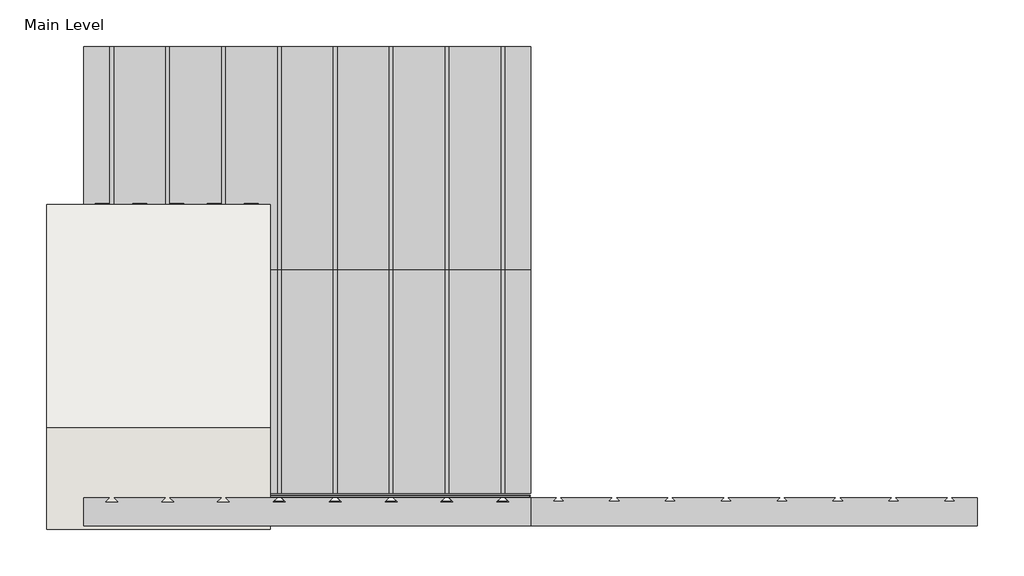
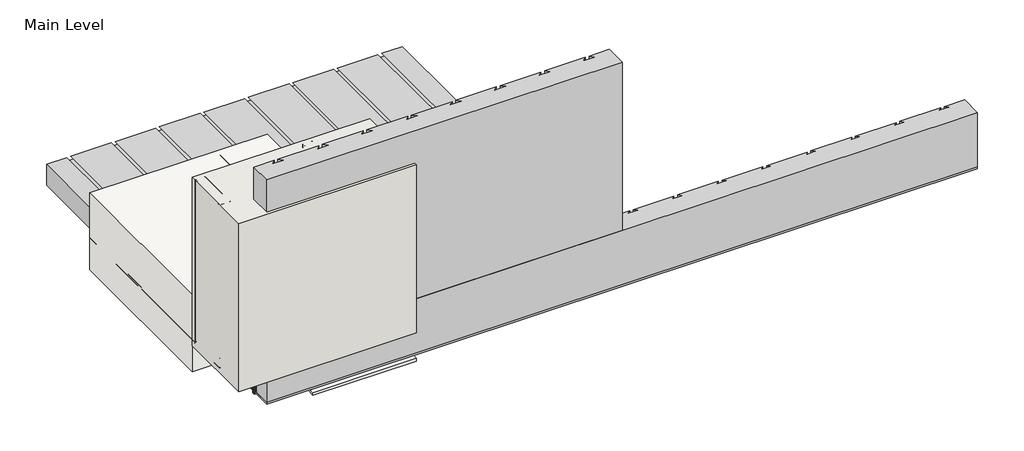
# One storey, incomplete: 21 proxies, 2 coverings, 2 walls.
"""IFC4 building model written with IfcOpenShell, lengths in millimetres."""

from ifc_helpers import new_model, si_unit, frame, origin, origin_with_axes, place, context, project, spatial, polyline, outline, extrude, transform, mapped, element, save
from components import generic_models_cd07b2ce, generic_models_4ec5f286, generic_models_2e656d56, generic_models_47e8b319, generic_models_65503a8f, proxy_998bcb27, proxy_b027fc18, proxy_63d6b373, soffit_box_soffit_box_70e22adb, top_adhesive_top_adhesive_610fdb37, wood_blocking_c9818c35, wood_blocking_63bdfc83

model = new_model("IFC4")

# Units and contexts
model_context = context("Model", 3, world=origin())
ifc_project = project(units=[si_unit("LENGTHUNIT", "METRE", prefix="MILLI")], contexts=[model_context])

# Site, building, storey
site = spatial("IfcSite", under=ifc_project)
building = spatial("IfcBuilding", under=site)
storey = spatial("IfcBuildingStorey", under=building, Name="Main Level", Elevation=0.0)

# Proxies
placement = place(None, origin())
generic_models_shape = generic_models_cd07b2ce(model_context)
element("IfcBuildingElementProxy", 1, Name="CRAi Generic Model Metal Stud Array : CRAi Generic Model Metal Stud Array", ObjectType="CRAi Generic Model Metal Stud Array : CRAi Generic Model Metal Stud Array", at=placement, inside=storey, context=model_context, shape_type="MappedRepresentation", body=[
    mapped(generic_models_shape, transform((26692.3726773, 726.0566297, 22.225), x_axis=(-1.0, 0.0, 0.0), y_axis=(0.0, -1.0, 0.0), z_axis=(0.0, 0.0, 1.0))),
])
generic_models_2_shape = generic_models_4ec5f286(model_context)
element("IfcBuildingElementProxy", 2, Name="Durabond Generic Model Insulation Adhesive Flat : Durabond Generic Model Insulation Adhesive Flat", ObjectType="Durabond Generic Model Insulation Adhesive Flat : Durabond Generic Model Insulation Adhesive Flat", at=placement, inside=storey, context=model_context, shape_type="MappedRepresentation", body=[
    mapped(generic_models_2_shape, transform((26641.5726773, 627.6316297, -9.525), x_axis=(1.0, 0.0, 0.0), y_axis=(0.0, 1.0, 0.0), z_axis=(0.0, 0.0, 1.0))),
])
element("IfcBuildingElementProxy", 3, Name="Durabond Generic Model Insulation Adhesive Flat : Durabond Generic Model Insulation Adhesive Flat", ObjectType="Durabond Generic Model Insulation Adhesive Flat : Durabond Generic Model Insulation Adhesive Flat", at=placement, inside=storey, context=model_context, shape_type="MappedRepresentation", body=[
    mapped(generic_models_2_shape, transform((26743.1726773, 627.6316297, -9.525), x_axis=(1.0, 0.0, 0.0), y_axis=(0.0, 1.0, 0.0), z_axis=(0.0, 0.0, 1.0))),
])
element("IfcBuildingElementProxy", 4, Name="Durabond Generic Model Insulation Adhesive Flat : Durabond Generic Model Insulation Adhesive Flat", ObjectType="Durabond Generic Model Insulation Adhesive Flat : Durabond Generic Model Insulation Adhesive Flat", at=placement, inside=storey, context=model_context, shape_type="MappedRepresentation", body=[
    mapped(generic_models_2_shape, transform((26844.7726773, 627.6316297, -9.525), x_axis=(1.0, 0.0, 0.0), y_axis=(0.0, 1.0, 0.0), z_axis=(0.0, 0.0, 1.0))),
])
element("IfcBuildingElementProxy", 5, Name="Durabond Generic Model Insulation Adhesive Flat : Durabond Generic Model Insulation Adhesive Flat", ObjectType="Durabond Generic Model Insulation Adhesive Flat : Durabond Generic Model Insulation Adhesive Flat", at=placement, inside=storey, context=model_context, shape_type="MappedRepresentation", body=[
    mapped(generic_models_2_shape, transform((26946.3726773, 627.6316297, -9.525), x_axis=(1.0, 0.0, 0.0), y_axis=(0.0, 1.0, 0.0), z_axis=(0.0, 0.0, 1.0))),
])
element("IfcBuildingElementProxy", 6, Name="Durabond Generic Model Insulation Adhesive Flat : Durabond Generic Model Insulation Adhesive Flat", ObjectType="Durabond Generic Model Insulation Adhesive Flat : Durabond Generic Model Insulation Adhesive Flat", at=placement, inside=storey, context=model_context, shape_type="MappedRepresentation", body=[
    mapped(generic_models_2_shape, transform((27047.9726773, 627.6316297, -9.525), x_axis=(1.0, 0.0, 0.0), y_axis=(0.0, 1.0, 0.0), z_axis=(0.0, 0.0, 1.0))),
])
generic_models_3_shape = generic_models_2e656d56(model_context)
generic_models_4_shape = generic_models_47e8b319(model_context)
element("IfcBuildingElementProxy", 7, Name="Durabond Generic Soffit Drainage Vent : Durabond Generic Soffit Drainage Vent", ObjectType="Durabond Generic Soffit Drainage Vent : Durabond Generic Soffit Drainage Vent", at=placement, inside=storey, context=model_context, shape_type="MappedRepresentation", body=[
    mapped(generic_models_3_shape, transform((27199.3497774, 626.0441297, -93.6625), x_axis=(1.0, 0.0, 0.0), y_axis=(0.0, 1.0, 0.0), z_axis=(0.0, 0.0, 1.0))),
    mapped(generic_models_4_shape, transform((27199.3497774, 626.0441297, -93.6625), x_axis=(1.0, 0.0, 0.0), y_axis=(0.0, 1.0, 0.0), z_axis=(0.0, 0.0, 1.0))),
])
generic_models_5_shape = generic_models_65503a8f(model_context)
element("IfcBuildingElementProxy", 8, Name="Durabond Generic Model Insulation Adhesive Flat : Durabond Generic Model Insulation Adhesive Flat", ObjectType="Durabond Generic Model Insulation Adhesive Flat : Durabond Generic Model Insulation Adhesive Flat", at=placement, inside=storey, context=model_context, shape_type="MappedRepresentation", body=[
    mapped(generic_models_5_shape, transform((26641.5726773, 637.1566297, -6.35), x_axis=(1.0, 0.0, 0.0), y_axis=(0.0, 0.0, -1.0), z_axis=(0.0, 1.0, 0.0))),
])
element("IfcBuildingElementProxy", 9, Name="Durabond Generic Model Insulation Adhesive Flat : Durabond Generic Model Insulation Adhesive Flat", ObjectType="Durabond Generic Model Insulation Adhesive Flat : Durabond Generic Model Insulation Adhesive Flat", at=placement, inside=storey, context=model_context, shape_type="MappedRepresentation", body=[
    mapped(generic_models_5_shape, transform((26743.1726773, 637.1566297, -6.35), x_axis=(1.0, 0.0, 0.0), y_axis=(0.0, 0.0, -1.0), z_axis=(0.0, 1.0, 0.0))),
])
element("IfcBuildingElementProxy", 10, Name="Durabond Generic Model Insulation Adhesive Flat : Durabond Generic Model Insulation Adhesive Flat", ObjectType="Durabond Generic Model Insulation Adhesive Flat : Durabond Generic Model Insulation Adhesive Flat", at=placement, inside=storey, context=model_context, shape_type="MappedRepresentation", body=[
    mapped(generic_models_5_shape, transform((26844.7726773, 637.1566297, -6.35), x_axis=(1.0, 0.0, 0.0), y_axis=(0.0, 0.0, -1.0), z_axis=(0.0, 1.0, 0.0))),
])
element("IfcBuildingElementProxy", 11, Name="Durabond Generic Model Insulation Adhesive Flat : Durabond Generic Model Insulation Adhesive Flat", ObjectType="Durabond Generic Model Insulation Adhesive Flat : Durabond Generic Model Insulation Adhesive Flat", at=placement, inside=storey, context=model_context, shape_type="MappedRepresentation", body=[
    mapped(generic_models_5_shape, transform((26946.3726773, 637.1566297, -6.35), x_axis=(1.0, 0.0, 0.0), y_axis=(0.0, 0.0, -1.0), z_axis=(0.0, 1.0, 0.0))),
])
element("IfcBuildingElementProxy", 12, Name="Durabond Generic Model Insulation Adhesive Flat : Durabond Generic Model Insulation Adhesive Flat", ObjectType="Durabond Generic Model Insulation Adhesive Flat : Durabond Generic Model Insulation Adhesive Flat", at=placement, inside=storey, context=model_context, shape_type="MappedRepresentation", body=[
    mapped(generic_models_5_shape, transform((27047.9726773, 637.1566297, -6.35), x_axis=(1.0, 0.0, 0.0), y_axis=(0.0, 0.0, -1.0), z_axis=(0.0, 1.0, 0.0))),
])
proxy_shape = proxy_998bcb27(model_context)
element("IfcBuildingElementProxy", 13, Name="Durabond Generic Model Flexlite Insulation Board : 3\"", ObjectType="Durabond Generic Model Flexlite Insulation Board : 3\"", at=placement, inside=storey, context=model_context, shape_type="MappedRepresentation", body=[
    mapped(proxy_shape, transform((27200.3726773, 624.4566297, 422.275), x_axis=(1.0, 0.0, 0.0), y_axis=(0.0, 0.0, 1.0), z_axis=(0.0, -1.0, 0.0))),
])
element("IfcBuildingElementProxy", 14, Name="Durabond Generic Model Flexlite Insulation Board : 3\"", ObjectType="Durabond Generic Model Flexlite Insulation Board : 3\"", at=placement, inside=storey, context=model_context, shape_type="MappedRepresentation", body=[
    mapped(proxy_shape, transform((27200.3726773, 941.9566297, -9.525), x_axis=(-1.0, 0.0, 0.0), y_axis=(0.0, 1.0, 0.0), z_axis=(0.0, 0.0, -1.0))),
])
element("IfcBuildingElementProxy", 15, Name="Durabond Generic Model Flexlite Insulation Board : 3\"", ObjectType="Durabond Generic Model Flexlite Insulation Board : 3\"", at=placement, inside=storey, context=model_context, shape_type="MappedRepresentation", body=[
    mapped(proxy_shape, transform((27200.3726773, 1551.5566297, -9.5089222), x_axis=(-1.0, 0.0, 0.0), y_axis=(0.0, 1.0, 0.0), z_axis=(0.0, 0.0, -1.0))),
])
proxy_2_shape = proxy_b027fc18(model_context)
element("IfcBuildingElementProxy", 16, Name="Durabond Generic Model Flexlite Vent Board : 3\"", ObjectType="Durabond Generic Model Flexlite Vent Board : 3\"", at=placement, inside=storey, context=model_context, shape_type="MappedRepresentation", body=[
    mapped(proxy_2_shape, transform((27809.1789273, 624.4566297, 15.875), x_axis=(1.0, 0.0, 0.0), y_axis=(0.0, 0.0, 1.0), z_axis=(0.0, -1.0, 0.0))),
])
proxy_3_shape = proxy_63d6b373(model_context)
element("IfcBuildingElementProxy", 17, Name="Durabond Generic Model Corner 90 Membrane : 4\" Barrier Seam Tape", ObjectType="Durabond Generic Model Corner 90 Membrane : 4\" Barrier Seam Tape", at=placement, inside=storey, context=model_context, shape_type="MappedRepresentation", body=[
    mapped(proxy_3_shape, transform((26514.5726773, 633.9816297, 0.0), x_axis=(0.0, 0.0, -1.0), y_axis=(0.0, 1.0, 0.0), z_axis=(1.0, 0.0, 0.0))),
])
soffit_box_soffit_box_shape = soffit_box_soffit_box_70e22adb(model_context)
element("IfcBuildingElementProxy", 18, Name="Soffit Box : Soffit Box", ObjectType="Soffit Box : Soffit Box", at=placement, inside=storey, context=model_context, shape_type="MappedRepresentation", body=[
    mapped(soffit_box_soffit_box_shape, transform((0.0, 0.0, 0.0), x_axis=(1.0, 0.0, 0.0), y_axis=(0.0, 1.0, 0.0), z_axis=(0.0, 0.0, 1.0))),
])
top_adhesive_top_adhesive_shape = top_adhesive_top_adhesive_610fdb37(model_context)
element("IfcBuildingElementProxy", 19, Name="Top Adhesive : Top Adhesive", ObjectType="Top Adhesive : Top Adhesive", at=placement, inside=storey, context=model_context, shape_type="MappedRepresentation", body=[
    mapped(top_adhesive_top_adhesive_shape, transform((0.0, 0.0, 0.0), x_axis=(1.0, 0.0, 0.0), y_axis=(0.0, 1.0, 0.0), z_axis=(0.0, 0.0, 1.0))),
])
wood_blocking_shape = wood_blocking_c9818c35(model_context)
element("IfcBuildingElementProxy", 20, Name="CRAi Generic Model Line Based Metal Framing Track : Wood Blocking", ObjectType="CRAi Generic Model Line Based Metal Framing Track : Wood Blocking", at=placement, inside=storey, context=model_context, shape_type="MappedRepresentation", body=[
    mapped(wood_blocking_shape, transform((26489.1726773, 649.8566297, 15.875), x_axis=(1.0, 0.0, 0.0), y_axis=(0.0, 1.0, 0.0), z_axis=(0.0, 0.0, 1.0))),
])
wood_blocking_2_shape = wood_blocking_63bdfc83(model_context)
element("IfcBuildingElementProxy", 21, Name="CRAi Generic Model Line Based Metal Framing Track : Wood Blocking", ObjectType="CRAi Generic Model Line Based Metal Framing Track : Wood Blocking", at=placement, inside=storey, context=model_context, shape_type="MappedRepresentation", body=[
    mapped(wood_blocking_2_shape, transform((26491.8622441, 802.2566297, 168.275), x_axis=(1.0, 0.0, 0.0), y_axis=(0.0, 0.0, -1.0), z_axis=(0.0, 1.0, 0.0))),
])

# Coverings
element("IfcCovering", 22, ObjectType="Durabond Detail Ceiling Metal Stud (AirStop)", at=placement, inside=storey, context=model_context, shape_type="SweptSolid", body=[
    extrude(outline(polyline([(27098.7726773, 814.9566297), (26489.1726773, 814.9566297), (26489.1726773, 1424.5566297), (27098.7726773, 1424.5566297), (27098.7726773, 814.9566297)])), frame((0.0, 0.0, -95.25), z_axis=(0.0, 0.0, 1.0), x_axis=(1.0, 0.0, 0.0)), (0.0, 0.0, 1.0), 279.4),
])
element("IfcCovering", 23, ObjectType="Durabond Stucco Lamina", at=placement, inside=storey, context=model_context, shape_type="SweptSolid", body=[
    extrude(outline(polyline([(538.7316297, -92.3552522), (614.9316297, -85.688616), (614.9316297, -95.25), (538.7316297, -101.9166362), (538.7316297, -92.3552522)])), frame((26743.1726773, 0.0, 0.0), z_axis=(1.0, 0.0, 0.0), x_axis=(0.0, 1.0, 0.0)), (0.0, 0.0, 1.0), 355.6),
])

# Walls
element("IfcWall", 24, ObjectType="189mm (7.5”) EIFS Field Applied on Mtl. Stud Layer - 50mm Grooved Insulation Board Metal Stud Wall (AirStop)", at=placement, inside=storey, context=model_context, shape_type="SweptSolid", body=[
    extrude(outline(polyline([(27098.7726773, 538.7316297), (26489.1726773, 538.7316297), (26489.1726773, 814.9566297), (27098.7726773, 814.9566297), (27098.7726773, 538.7316297)])), origin_with_axes(), (0.0, 0.0, 1.0), 609.6),
])
element("IfcWall", 25, ObjectType="Durabond Stucco System Lamina Back of Soffit", at=placement, inside=storey, context=model_context, shape_type="SweptSolid", body=[
    extrude(outline(polyline([(27098.7726773, 614.9316297), (26743.1726773, 614.9316297), (26743.1726773, 621.2816297), (27098.7726773, 621.2816297), (27098.7726773, 614.9316297)])), frame((0.0, 0.0, -98.425), z_axis=(0.0, 0.0, 1.0), x_axis=(1.0, 0.0, 0.0)), (0.0, 0.0, 1.0), 47.625),
])

save(model, "model.ifc")
